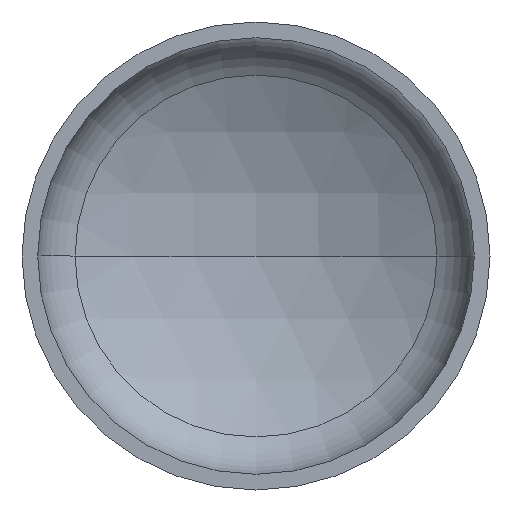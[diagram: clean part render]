
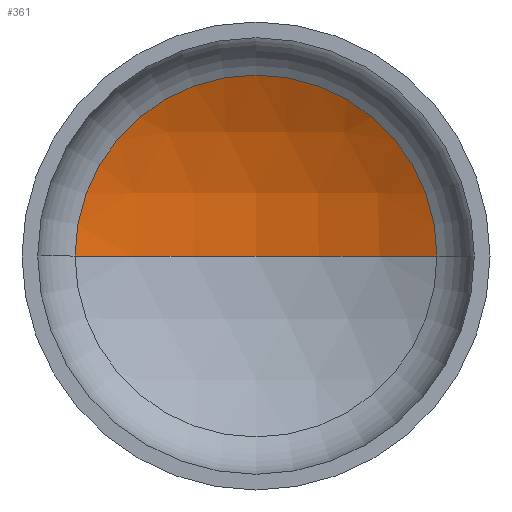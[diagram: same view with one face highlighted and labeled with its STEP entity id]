
A CAD part, front view. The second image highlights one B-rep face of the part: STEP entity #361.
In plain terms, the highlighted spherical face has radius 2720 mm.
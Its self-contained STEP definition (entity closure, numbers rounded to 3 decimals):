
#16 = ORIENTED_EDGE ( 'NONE', *, *, #176, .T. ) ;
#17 = DIRECTION ( 'NONE',  ( -1., 0., 0. ) ) ;
#22 = DIRECTION ( 'NONE',  ( 0., 0., -1. ) ) ;
#27 = DIRECTION ( 'NONE',  ( 1., 0., 0. ) ) ;
#31 = DIRECTION ( 'NONE',  ( 0., -1., 0. ) ) ;
#37 = CARTESIAN_POINT ( 'NONE',  ( 0., 534.593, 0. ) ) ;
#38 = VERTEX_POINT ( 'NONE', #288 ) ;
#42 = AXIS2_PLACEMENT_3D ( 'NONE', #262, #238, #120 ) ;
#57 = CARTESIAN_POINT ( 'NONE',  ( 0., -1846.537, 0. ) ) ;
#66 = EDGE_LOOP ( 'NONE', ( #96, #99, #16 ) ) ;
#69 = VERTEX_POINT ( 'NONE', #252 ) ;
#73 = VERTEX_POINT ( 'NONE', #246 ) ;
#96 = ORIENTED_EDGE ( 'NONE', *, *, #179, .F. ) ;
#99 = ORIENTED_EDGE ( 'NONE', *, *, #178, .T. ) ;
#115 = AXIS2_PLACEMENT_3D ( 'NONE', #284, #321, #221 ) ;
#118 = AXIS2_PLACEMENT_3D ( 'NONE', #57, #22, #17 ) ;
#120 = DIRECTION ( 'NONE',  ( -1., 0., 0. ) ) ;
#121 = AXIS2_PLACEMENT_3D ( 'NONE', #37, #31, #27 ) ;
#135 = CIRCLE ( 'NONE', #115, 2720. ) ;
#176 = EDGE_CURVE ( 'NONE', #73, #38, #332, .T. ) ;
#178 = EDGE_CURVE ( 'NONE', #69, #73, #273, .T. ) ;
#179 = EDGE_CURVE ( 'NONE', #69, #38, #135, .T. ) ;
#221 = DIRECTION ( 'NONE',  ( 1., 0., 0. ) ) ;
#235 = SPHERICAL_SURFACE ( 'NONE', #42, 2720. ) ;
#238 = DIRECTION ( 'NONE',  ( 0., 0., -1. ) ) ;
#246 = CARTESIAN_POINT ( 'NONE',  ( 1314.77, 534.593, 0. ) ) ;
#252 = CARTESIAN_POINT ( 'NONE',  ( 0., 873.463, 0. ) ) ;
#262 = CARTESIAN_POINT ( 'NONE',  ( 0., -1846.537, 0. ) ) ;
#273 = CIRCLE ( 'NONE', #118, 2720. ) ;
#284 = CARTESIAN_POINT ( 'NONE',  ( 0., -1846.537, 0. ) ) ;
#288 = CARTESIAN_POINT ( 'NONE',  ( -1314.77, 534.593, 0. ) ) ;
#321 = DIRECTION ( 'NONE',  ( 0., 0., 1. ) ) ;
#332 = CIRCLE ( 'NONE', #121, 1314.77 ) ;
#361 = ADVANCED_FACE ( 'NONE', ( #409 ), #235, .F. ) ;
#409 = FACE_OUTER_BOUND ( 'NONE', #66, .T. ) ;
